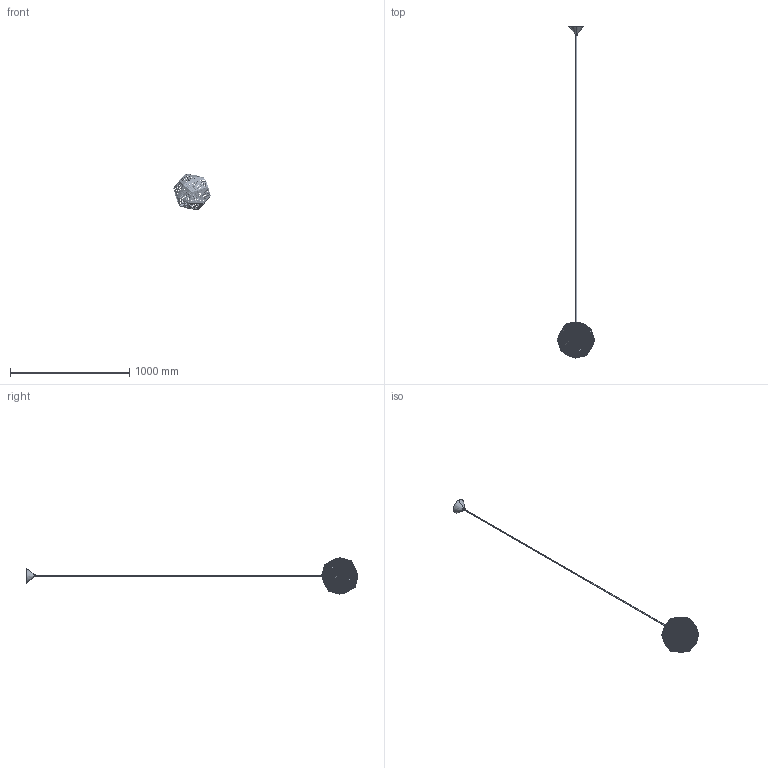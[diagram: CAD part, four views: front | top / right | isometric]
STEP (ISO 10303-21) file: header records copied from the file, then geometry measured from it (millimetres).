
FILE_DESCRIPTION(/* description */ (''),/* implementation_level */ '2;1');
FILE_NAME(/* name */ 'Etch 32cm',/* time_stamp */ '2022-07-28T12:14:11+01:00',/* author */ (''),/* organization */ (''),/* preprocessor_version */ 'ST-DEVELOPER v16.5',/* originating_system */ '',/* authorisation */ '');
FILE_SCHEMA (('AUTOMOTIVE_DESIGN'));
Products named in the file (3): Document; 2018-03-20 SPA04 Fitting; PART icosite COMPLETE with pattern
Assembly tree (3 placements, depth 2):
  Document
    2018-03-20 SPA04 Fitting
    PART icosite COMPLETE with pattern  x2
Bounding box: 313.53 x 2782.63 x 305.82 mm (x, y, z)
Volume: 131382.5 mm3; surface area: 338878.9 mm2
Topology: 15 solids, 40 shells, 783 faces, 51063 edges, 50360 vertices
Faces by surface type: bspline 573, plane 210
Entity records: 270763 total; most frequent: CARTESIAN_POINT 150557, ORIENTED_EDGE 28612, EDGE_CURVE 26559, B_SPLINE_CURVE_WITH_KNOTS 26016, VERTEX_POINT 25856, EDGE_LOOP 5656, FACE_BOUND 4885, ADVANCED_FACE 771
